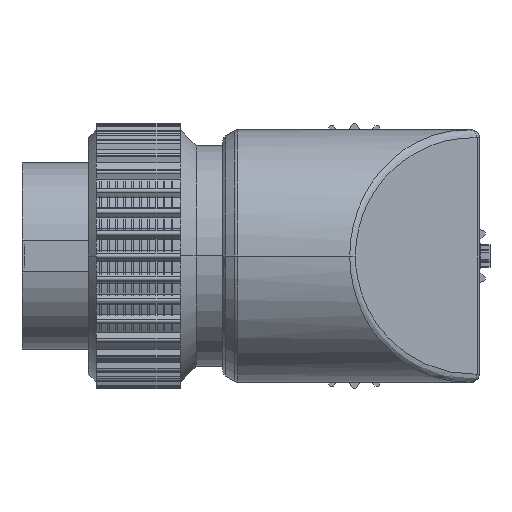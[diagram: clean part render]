
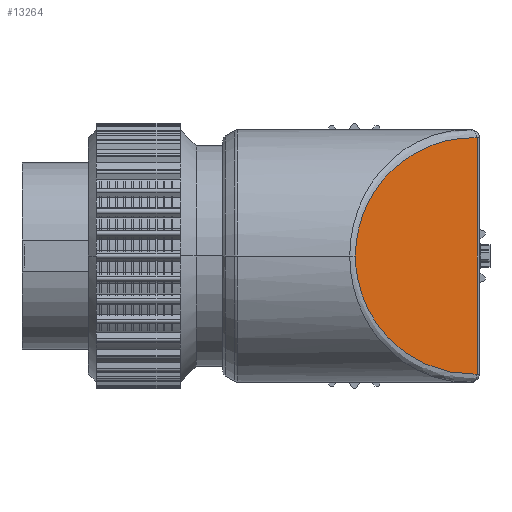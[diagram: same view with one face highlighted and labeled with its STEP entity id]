
A CAD part, front view. The second image highlights one B-rep face of the part: STEP entity #13264.
In plain terms, the highlighted planar face has unit normal (0.707, -0.707, 0).
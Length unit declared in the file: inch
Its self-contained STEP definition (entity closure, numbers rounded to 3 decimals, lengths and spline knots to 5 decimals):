
#15=DIRECTION('',(0.,0.,-1.));
#16=VECTOR('',#15,0.88965);
#17=CARTESIAN_POINT('',(1.71121,-0.00879,0.44482));
#18=LINE('',#17,#16);
#19=CARTESIAN_POINT('',(1.71121,-0.00879,
-0.44482));
#20=CARTESIAN_POINT('',(1.60857,-0.11143,
-0.44769));
#21=CARTESIAN_POINT('',(1.45219,-0.26781,
-0.401));
#22=CARTESIAN_POINT('',(1.29089,-0.42911,
-0.21273));
#23=CARTESIAN_POINT('',(1.25379,-0.46621,
-0.07179));
#24=CARTESIAN_POINT('',(1.25379,-0.46621,
0.));
#26=CARTESIAN_POINT('',(1.25379,-0.46621,
0.));
#27=CARTESIAN_POINT('',(1.25379,-0.46621,0.07178));
#28=CARTESIAN_POINT('',(1.29089,-0.42911,0.21273));
#29=CARTESIAN_POINT('',(1.45219,-0.26781,0.401));
#30=CARTESIAN_POINT('',(1.60857,-0.11143,0.44769));
#31=CARTESIAN_POINT('',(1.71121,-0.00879,0.44482));
#10835=CARTESIAN_POINT('',(1.71121,-0.00879,
0.44482));
#10836=CARTESIAN_POINT('',(1.71121,-0.00879,
-0.44482));
#10837=VERTEX_POINT('',#10835);
#10838=VERTEX_POINT('',#10836);
#10839=VERTEX_POINT('',#24);
#13252=CARTESIAN_POINT('',(1.4825,-0.2375,
0.));
#13253=DIRECTION('',(0.707,-0.707,0.));
#13254=DIRECTION('',(-0.707,-0.707,0.));
#13255=AXIS2_PLACEMENT_3D('',#13252,#13253,#13254);
#13256=PLANE('',#13255);
#13257=ORIENTED_EDGE('',*,*,#13242,.T.);
#13259=ORIENTED_EDGE('',*,*,#13258,.T.);
#13261=ORIENTED_EDGE('',*,*,#13260,.T.);
#13262=EDGE_LOOP('',(#13257,#13259,#13261));
#13263=FACE_OUTER_BOUND('',#13262,.F.);
#13264=ADVANCED_FACE('',(#13263),#13256,.T.);
#25=B_SPLINE_CURVE_WITH_KNOTS('',3,(#19,#20,#21,#22,#23,#24),.UNSPECIFIED.,.F.,
.F.,(4,1,1,4),(0.,0.5,0.75,1.),.UNSPECIFIED.);
#32=B_SPLINE_CURVE_WITH_KNOTS('',3,(#26,#27,#28,#29,#30,#31),.UNSPECIFIED.,.F.,
.F.,(4,1,1,4),(0.,0.25,0.5,1.),.UNSPECIFIED.);
#13242=EDGE_CURVE('',#10837,#10838,#18,.T.);
#13258=EDGE_CURVE('',#10838,#10839,#25,.T.);
#13260=EDGE_CURVE('',#10839,#10837,#32,.T.);
